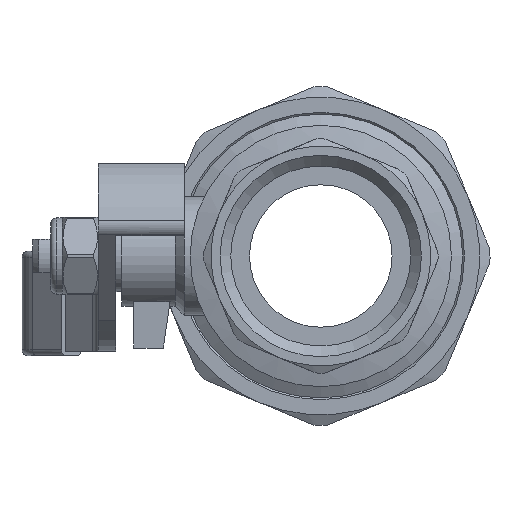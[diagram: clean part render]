
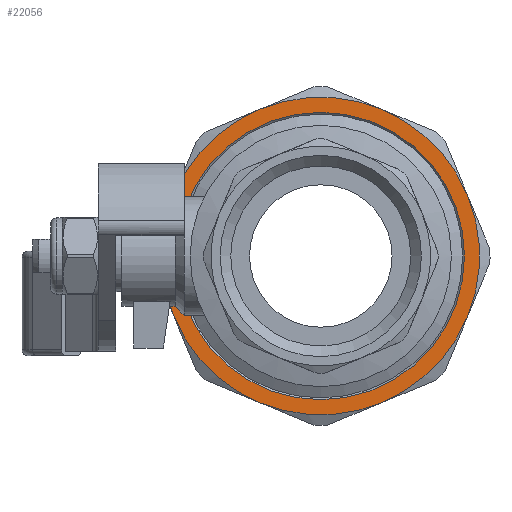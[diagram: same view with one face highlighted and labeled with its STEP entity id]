
A CAD part, left-side view. The second image highlights one B-rep face of the part: STEP entity #22056.
In plain terms, the highlighted planar face has unit normal (-1, 0, 0).
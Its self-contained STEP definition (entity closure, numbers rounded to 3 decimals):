
#501=FACE_BOUND('',#3842,.T.);
#2536=FACE_OUTER_BOUND('',#3841,.T.);
#3841=EDGE_LOOP('',(#18854,#18855,#18856,#18857,#18858,#18859,#18860,#18861));
#3842=EDGE_LOOP('',(#18862,#18863));
#8313=CIRCLE('',#23321,24.2);
#8314=CIRCLE('',#23322,24.2);
#8315=CIRCLE('',#23324,26.75);
#8316=CIRCLE('',#23325,26.75);
#8317=CIRCLE('',#23326,26.75);
#8318=CIRCLE('',#23327,26.75);
#8319=CIRCLE('',#23328,26.75);
#8320=CIRCLE('',#23329,26.75);
#8321=CIRCLE('',#23330,26.75);
#8322=CIRCLE('',#23331,26.75);
#10147=VERTEX_POINT('',#41772);
#10148=VERTEX_POINT('',#41773);
#10149=VERTEX_POINT('',#41778);
#10150=VERTEX_POINT('',#41779);
#10151=VERTEX_POINT('',#41781);
#10152=VERTEX_POINT('',#41783);
#10153=VERTEX_POINT('',#41785);
#10154=VERTEX_POINT('',#41787);
#10155=VERTEX_POINT('',#41789);
#10156=VERTEX_POINT('',#41791);
#13151=EDGE_CURVE('',#10147,#10148,#8313,.T.);
#13153=EDGE_CURVE('',#10148,#10147,#8314,.T.);
#13154=EDGE_CURVE('',#10149,#10150,#8315,.T.);
#13155=EDGE_CURVE('',#10150,#10151,#8316,.T.);
#13156=EDGE_CURVE('',#10151,#10152,#8317,.T.);
#13157=EDGE_CURVE('',#10152,#10153,#8318,.T.);
#13158=EDGE_CURVE('',#10153,#10154,#8319,.T.);
#13159=EDGE_CURVE('',#10154,#10155,#8320,.T.);
#13160=EDGE_CURVE('',#10155,#10156,#8321,.T.);
#13161=EDGE_CURVE('',#10156,#10149,#8322,.T.);
#18854=ORIENTED_EDGE('',*,*,#13154,.T.);
#18855=ORIENTED_EDGE('',*,*,#13155,.T.);
#18856=ORIENTED_EDGE('',*,*,#13156,.T.);
#18857=ORIENTED_EDGE('',*,*,#13157,.T.);
#18858=ORIENTED_EDGE('',*,*,#13158,.T.);
#18859=ORIENTED_EDGE('',*,*,#13159,.T.);
#18860=ORIENTED_EDGE('',*,*,#13160,.T.);
#18861=ORIENTED_EDGE('',*,*,#13161,.T.);
#18862=ORIENTED_EDGE('',*,*,#13151,.F.);
#18863=ORIENTED_EDGE('',*,*,#13153,.F.);
#20962=PLANE('',#23323);
#22056=ADVANCED_FACE('',(#2536,#501),#20962,.T.);
#23321=AXIS2_PLACEMENT_3D('',#41774,#26971,#26972);
#23322=AXIS2_PLACEMENT_3D('',#41776,#26974,#26975);
#23323=AXIS2_PLACEMENT_3D('',#41777,#26976,#26977);
#23324=AXIS2_PLACEMENT_3D('',#41780,#26978,#26979);
#23325=AXIS2_PLACEMENT_3D('',#41782,#26980,#26981);
#23326=AXIS2_PLACEMENT_3D('',#41784,#26982,#26983);
#23327=AXIS2_PLACEMENT_3D('',#41786,#26984,#26985);
#23328=AXIS2_PLACEMENT_3D('',#41788,#26986,#26987);
#23329=AXIS2_PLACEMENT_3D('',#41790,#26988,#26989);
#23330=AXIS2_PLACEMENT_3D('',#41792,#26990,#26991);
#23331=AXIS2_PLACEMENT_3D('',#41793,#26992,#26993);
#26971=DIRECTION('center_axis',(-1.,0.,0.));
#26972=DIRECTION('ref_axis',(0.,0.,1.));
#26974=DIRECTION('center_axis',(-1.,0.,0.));
#26975=DIRECTION('ref_axis',(0.,0.,1.));
#26976=DIRECTION('center_axis',(-1.,0.,0.));
#26977=DIRECTION('ref_axis',(0.,0.,1.));
#26978=DIRECTION('center_axis',(-1.,0.,0.));
#26979=DIRECTION('ref_axis',(0.,0.,1.));
#26980=DIRECTION('center_axis',(-1.,0.,0.));
#26981=DIRECTION('ref_axis',(0.,0.,1.));
#26982=DIRECTION('center_axis',(-1.,0.,0.));
#26983=DIRECTION('ref_axis',(0.,0.,1.));
#26984=DIRECTION('center_axis',(-1.,0.,0.));
#26985=DIRECTION('ref_axis',(0.,0.,1.));
#26986=DIRECTION('center_axis',(-1.,0.,0.));
#26987=DIRECTION('ref_axis',(0.,0.,1.));
#26988=DIRECTION('center_axis',(-1.,0.,0.));
#26989=DIRECTION('ref_axis',(0.,0.,1.));
#26990=DIRECTION('center_axis',(-1.,0.,0.));
#26991=DIRECTION('ref_axis',(0.,0.,1.));
#26992=DIRECTION('center_axis',(-1.,0.,0.));
#26993=DIRECTION('ref_axis',(0.,0.,1.));
#41772=CARTESIAN_POINT('',(16.75,-24.2,0.));
#41773=CARTESIAN_POINT('',(16.75,24.2,0.));
#41774=CARTESIAN_POINT('Origin',(16.75,0.,
0.));
#41776=CARTESIAN_POINT('Origin',(16.75,0.,
0.));
#41777=CARTESIAN_POINT('Origin',(16.75,-24.2,0.));
#41778=CARTESIAN_POINT('',(16.75,-24.714,-10.237));
#41779=CARTESIAN_POINT('',(16.75,-24.714,10.237));
#41780=CARTESIAN_POINT('Origin',(16.75,0.,
0.));
#41781=CARTESIAN_POINT('',(16.75,-10.237,24.714));
#41782=CARTESIAN_POINT('Origin',(16.75,0.,
0.));
#41783=CARTESIAN_POINT('',(16.75,10.237,24.714));
#41784=CARTESIAN_POINT('Origin',(16.75,0.,
0.));
#41785=CARTESIAN_POINT('',(16.75,24.714,10.237));
#41786=CARTESIAN_POINT('Origin',(16.75,0.,
0.));
#41787=CARTESIAN_POINT('',(16.75,24.714,-10.237));
#41788=CARTESIAN_POINT('Origin',(16.75,0.,
0.));
#41789=CARTESIAN_POINT('',(16.75,10.237,-24.714));
#41790=CARTESIAN_POINT('Origin',(16.75,0.,
0.));
#41791=CARTESIAN_POINT('',(16.75,-10.237,-24.714));
#41792=CARTESIAN_POINT('Origin',(16.75,0.,
0.));
#41793=CARTESIAN_POINT('Origin',(16.75,0.,
0.));
